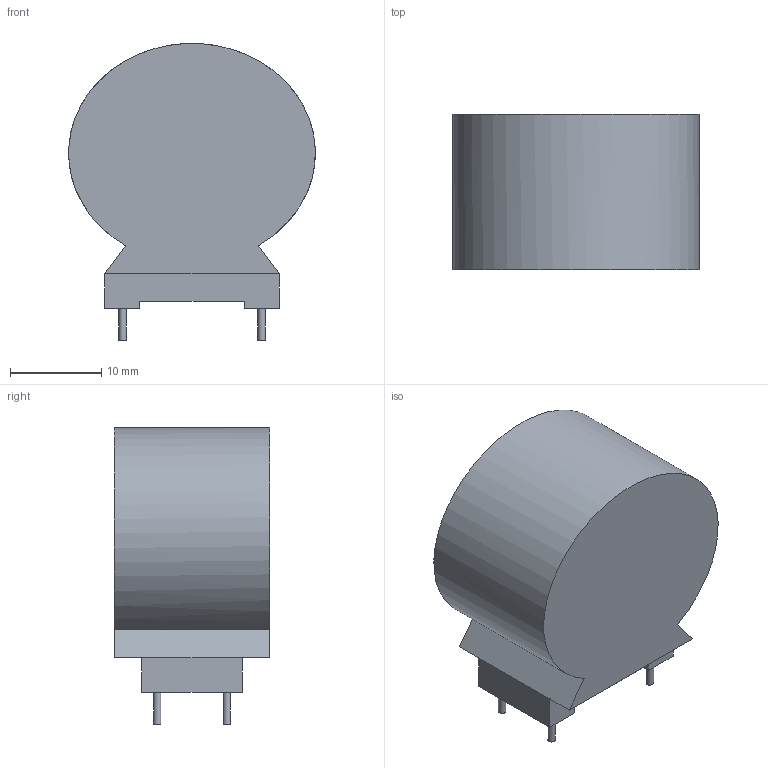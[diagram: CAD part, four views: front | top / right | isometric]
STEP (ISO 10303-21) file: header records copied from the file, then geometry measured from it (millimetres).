
FILE_DESCRIPTION(/* description */ (''),/* implementation_level */ '2;1');
FILE_NAME(/* name */ 'F:\Done\2016\产品3D模拟 新型号\修改针径\新建文件夹\6161-X504\6161-X504 3D Model.stp',/* time_stamp */ '2016-07-12T13:26:44+08:00',/* author */ ('CN000562'),/* organization */ (''),/* preprocessor_version */ 'ST-DEVELOPER v16.5',/* originating_system */ 'Autodesk Inventor 2017',/* authorisation */ '');
FILE_SCHEMA (('AUTOMOTIVE_DESIGN { 1 0 10303 214 3 1 1 }'));
Length unit declared in the file: millimetre
Products named in the file (1): 零件1
Bounding box: 26.99 x 17 x 32.48 mm (x, y, z)
Volume: 9918.7 mm3; surface area: 2909.3 mm2
Topology: 1 solids, 1 shells, 24 faces, 50 edges, 32 vertices
Faces by surface type: plane 19, cylinder 4, bspline 1
Full cylindrical faces by diameter (mm): 0.8 x4
Entity records: 655 total; most frequent: CARTESIAN_POINT 120, DIRECTION 104, ORIENTED_EDGE 92, EDGE_CURVE 46, LINE 36, VECTOR 36, AXIS2_PLACEMENT_3D 34, EDGE_LOOP 32
